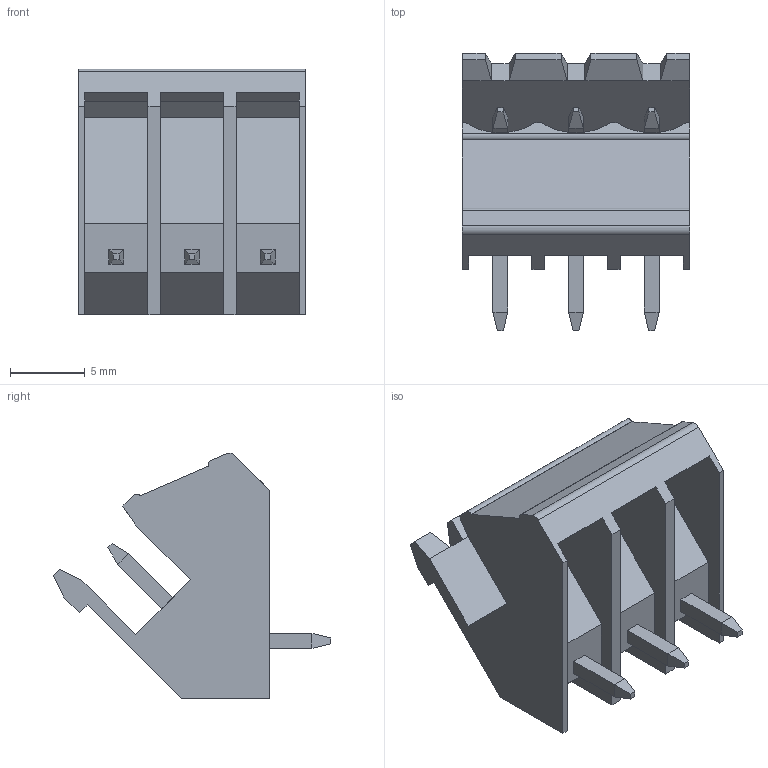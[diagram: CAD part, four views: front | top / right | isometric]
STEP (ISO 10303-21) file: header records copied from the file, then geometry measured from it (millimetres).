
FILE_DESCRIPTION((''),'2;1');
FILE_NAME('3PIN_SW0001','2019-05-10T',('zhenbing.lai'),(''),'CREO PARAMETRIC BY PTC INC, 2016260','CREO PARAMETRIC BY PTC INC, 2016260','');
FILE_SCHEMA(('CONFIG_CONTROL_DESIGN'));
Length unit declared in the file: millimetre
Products named in the file (1): 3PIN_SW0001
Bounding box: 15.24 x 18.6 x 16.5 mm (x, y, z)
Volume: 1207 mm3; surface area: 1750.5 mm2
Topology: 1 solids, 1 shells, 145 faces, 363 edges, 220 vertices
Faces by surface type: plane 124, cylinder 12, cone 9
Entity records: 4184 total; most frequent: CARTESIAN_POINT 722, ORIENTED_EDGE 714, DIRECTION 674, EDGE_CURVE 357, VECTOR 330, LINE 330, VERTEX_POINT 220, AXIS2_PLACEMENT_3D 172
